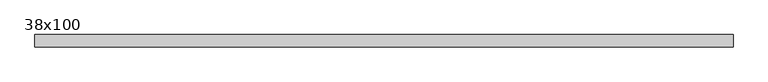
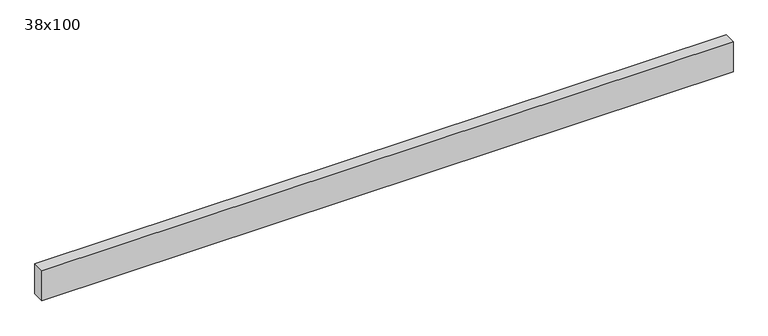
"""IFC4 building model written with IfcOpenShell, lengths in millimetres: beam geometry, Poutre - Bois de construction de dimensions courantes : 38x100."""

import ifcopenshell
import ifcopenshell.guid

model = None  # the IFC model being written
_history = None  # IfcOwnerHistory: only IFC2X3 demands one
_inside = {}  # id of a spatial element -> (the spatial element, [elements in it])
_under = {}  # id of a project, library or spatial element -> (it, [spatial elements below it])
_declared = {}  # id of a project -> (the project, [libraries it declares])
_typed = {}  # id of a type object -> (the type object, [elements of that type])
_made_of = {}  # id of a material, layer set ... -> (it, [elements and type objects made of it])


def new_model(schema):
    """Start an empty IFC model of exactly this schema.

    Asked for "IFC4X3", IfcOpenShell would pick the latest addendum, in which some entities
    have other attributes; the version numbers below select the first issue.
    IFC2X3 requires an IfcOwnerHistory on every rooted entity: one is made here for all.
    """
    global model, _history
    if schema == "IFC4X3":
        model = ifcopenshell.file(schema_version=(4, 3, 0, 0))
    else:
        model = ifcopenshell.file(schema=schema)
    _inside.clear()
    _under.clear()
    _declared.clear()
    _typed.clear()
    _made_of.clear()
    _history = None
    if model.schema == "IFC2X3":
        org = make("IfcOrganization", Name="unknown")
        user = make(
            "IfcPersonAndOrganization",
            ThePerson=make("IfcPerson", FamilyName="unknown"),
            TheOrganization=org,
        )
        app = make(
            "IfcApplication",
            ApplicationDeveloper=org,
            Version="unknown",
            ApplicationFullName="unknown",
            ApplicationIdentifier="unknown",
        )
        _history = make(
            "IfcOwnerHistory",
            OwningUser=user,
            OwningApplication=app,
            ChangeAction="ADDED",
            CreationDate=0,
        )
    return model


def make(cls, **values):
    """One entity of the class cls with the attributes given. An attribute that is None is left unset."""
    return model.create_entity(
        cls, **{name: value for name, value in values.items() if value is not None}
    )


def rooted(cls, **values):
    """An entity with a GlobalId (a new one), such as an element, a storey or a relation."""
    return make(cls, GlobalId=ifcopenshell.guid.new(), OwnerHistory=_history, **values)


def si_unit(unit_type, name, prefix=None):
    """IfcSIUnit, for example si_unit("LENGTHUNIT", "METRE", prefix="MILLI")."""
    return make("IfcSIUnit", UnitType=unit_type, Prefix=prefix, Name=name)


def assignment(units):
    """IfcUnitAssignment: the units of a project."""
    return None if units is None else make("IfcUnitAssignment", Units=units)


def point(xyz):
    """IfcCartesianPoint."""
    return None if xyz is None else make("IfcCartesianPoint", Coordinates=xyz)


def direction(xyz):
    """IfcDirection."""
    return None if xyz is None else make("IfcDirection", DirectionRatios=xyz)


def frame(location, z_axis=None, x_axis=None):
    """IfcAxis2Placement3D, a coordinate frame: its origin and axes. An axis left out is left unset."""
    return make(
        "IfcAxis2Placement3D",
        Location=point(location),
        Axis=direction(z_axis),
        RefDirection=direction(x_axis),
    )


def origin():
    """The frame at (0, 0, 0) with its axes left unset."""
    return frame((0.0, 0.0, 0.0))


def place(relative_to, where):
    """IfcLocalPlacement: puts the frame where relative to a parent placement (None: the world)."""
    return make(
        "IfcLocalPlacement", PlacementRelTo=relative_to, RelativePlacement=where
    )


def context(
    kind, dimensions, precision=None, world=None, true_north=None, identifier=None
):
    """IfcGeometricRepresentationContext, for example the 3D "Model" context."""
    return make(
        "IfcGeometricRepresentationContext",
        ContextIdentifier=identifier,
        ContextType=kind,
        CoordinateSpaceDimension=dimensions,
        Precision=precision,
        WorldCoordinateSystem=world,
        TrueNorth=true_north,
    )


def project(units=None, contexts=None):
    """IfcProject with its units and contexts."""
    return rooted(
        "IfcProject",
        Name="project",
        RepresentationContexts=contexts,
        UnitsInContext=assignment(units),
    )


def spatial(cls, under=None, at=None, **own):
    """A site, building, storey or space (cls), placed at a placement, below another one or the project."""
    s = rooted(cls, ObjectPlacement=at, **own)
    if under is not None:
        _under.setdefault(under.id(), (under, []))[1].append(s)
    return s


def polyline(points):
    """IfcPolyline through the points."""
    return make("IfcPolyline", Points=[point(p) for p in points])


def outline(outer, holes=None, kind="AREA"):
    """IfcArbitraryClosedProfileDef: a profile drawn as a closed curve; with holes, ...WithVoids."""
    if holes is None:
        return make("IfcArbitraryClosedProfileDef", ProfileType=kind, OuterCurve=outer)
    return make(
        "IfcArbitraryProfileDefWithVoids",
        ProfileType=kind,
        OuterCurve=outer,
        InnerCurves=holes,
    )


def extrude(swept, where, along, depth):
    """IfcExtrudedAreaSolid: the profile swept, set in the frame where, extruded along a direction by depth."""
    return make(
        "IfcExtrudedAreaSolid",
        SweptArea=swept,
        Position=where,
        ExtrudedDirection=direction(along),
        Depth=depth,
    )


def shape(context_of_items, identifier, shape_type, items):
    """IfcShapeRepresentation: the items that make up one representation, for example the "Body"."""
    return make(
        "IfcShapeRepresentation",
        ContextOfItems=context_of_items,
        RepresentationIdentifier=identifier,
        RepresentationType=shape_type,
        Items=items,
    )


def source(mapping_origin, context_of_items, identifier, shape_type, items):
    """IfcRepresentationMap: a shape defined once, which mapped items show again and again."""
    return make(
        "IfcRepresentationMap",
        MappingOrigin=mapping_origin,
        MappedRepresentation=shape(context_of_items, identifier, shape_type, items),
    )


def transform(
    local_origin,
    x_axis=None,
    y_axis=None,
    z_axis=None,
    scale=None,
    scale2=None,
    scale3=None,
    uniform=True,
):
    """IfcCartesianTransformationOperator3D, or its non-uniform kind. x_axis, y_axis, z_axis: its Axis1, 2, 3."""
    if uniform:
        return make(
            "IfcCartesianTransformationOperator3D",
            Axis1=direction(x_axis),
            Axis2=direction(y_axis),
            LocalOrigin=point(local_origin),
            Scale=scale,
            Axis3=direction(z_axis),
        )
    return make(
        "IfcCartesianTransformationOperator3DnonUniform",
        Axis1=direction(x_axis),
        Axis2=direction(y_axis),
        LocalOrigin=point(local_origin),
        Scale=scale,
        Axis3=direction(z_axis),
        Scale2=scale2,
        Scale3=scale3,
    )


def mapped(mapping_source, mapping_target):
    """IfcMappedItem: shows the shape of a source again, moved by a transform."""
    return make(
        "IfcMappedItem", MappingSource=mapping_source, MappingTarget=mapping_target
    )


def made_of(thing, what):
    """Note that an element or type object is made of a material, layer set ...; save() writes the relation."""
    if what is not None:
        _made_of.setdefault(what.id(), (what, []))[1].append(thing)
    return thing


def element(
    cls,
    number,
    at=None,
    inside=None,
    cuts=None,
    type_object=None,
    material=None,
    context=None,
    identifier="Body",
    shape_type=None,
    held_by="IfcProductDefinitionShape",
    body=None,
    shapes=None,
    **own,
):
    """One element of the class cls, such as IfcWall. Its Tag is "e" and its number.

    at: its placement. inside: the storey or other place that contains it. cuts: it is an
    opening in that element (IfcRelVoidsElement). A single representation is given by context,
    identifier, shape_type and body (its items); several are given by shapes. held_by: the class
    of the entity that holds the representations. save() writes the other relations.
    """
    e = rooted(cls, Tag="e%d" % number, ObjectPlacement=at, **own)
    if body is not None:
        shapes = [shape(context, identifier, shape_type, body)]
    if shapes is not None:
        e.Representation = make(held_by, Representations=shapes)
    if inside is not None:
        _inside.setdefault(inside.id(), (inside, []))[1].append(e)
    if cuts is not None:
        rooted(
            "IfcRelVoidsElement", RelatingBuildingElement=cuts, RelatedOpeningElement=e
        )
    if type_object is not None:
        _typed.setdefault(type_object.id(), (type_object, []))[1].append(e)
    return made_of(e, material)


def aggregate(whole, parts):
    """IfcRelAggregates: a whole, such as a stair, and the parts it consists of."""
    return rooted("IfcRelAggregates", RelatingObject=whole, RelatedObjects=parts)


def save(model, path):
    """Write the relations noted so far, then the file.

    IfcRelAggregates (storeys below a building ...), IfcRelContainedInSpatialStructure (elements
    in a storey), IfcRelDefinesByType, IfcRelAssociatesMaterial and IfcRelDeclares: one each for
    every whole, place, type object, material and project.
    """
    for whole, parts in _under.values():
        aggregate(whole, parts)
    for where, things in _inside.values():
        rooted(
            "IfcRelContainedInSpatialStructure",
            RelatedElements=things,
            RelatingStructure=where,
        )
    for kind, things in _typed.values():
        rooted("IfcRelDefinesByType", RelatedObjects=things, RelatingType=kind)
    for what, things in _made_of.values():
        rooted("IfcRelAssociatesMaterial", RelatedObjects=things, RelatingMaterial=what)
    for by, libraries in _declared.values():
        rooted("IfcRelDeclares", RelatingContext=by, RelatedDefinitions=libraries)
    model.write(path)


def beam_38x100_f100d812(model_context):
    return source(origin(), model_context, "Body", "SweptSolid", [
        extrude(outline(polyline([(1106.5, 19.05), (1106.5, -19.05), (-1070.5, -19.05), (-1070.5, 19.05), (1106.5, 19.05)])), frame((0.0, 0.0, -50.0), z_axis=(0.0, 0.0, 1.0), x_axis=(1.0, 0.0, 0.0)), (0.0, 0.0, 1.0), 100.0),
    ])


if __name__ == "__main__":
    model = new_model("IFC4")
    model_context = context("Model", 3, world=origin())
    ifc_project = project(units=[si_unit("LENGTHUNIT", "METRE", prefix="MILLI")], contexts=[model_context])
    site = spatial("IfcSite", under=ifc_project)
    building = spatial("IfcBuilding", under=site)
    placement = place(None, origin())
    beam_38x100_shape = beam_38x100_f100d812(model_context)
    element("IfcBeam", 1, ObjectType="Poutre - Bois de construction de dimensions courantes : 38x100", at=placement, inside=building, context=model_context, shape_type="MappedRepresentation", body=[
        mapped(beam_38x100_shape, transform((0.0, 0.0, 0.0), x_axis=(1.0, 0.0, 0.0), y_axis=(0.0, 1.0, 0.0), z_axis=(0.0, 0.0, 1.0))),
    ])
    save(model, "model.ifc")
